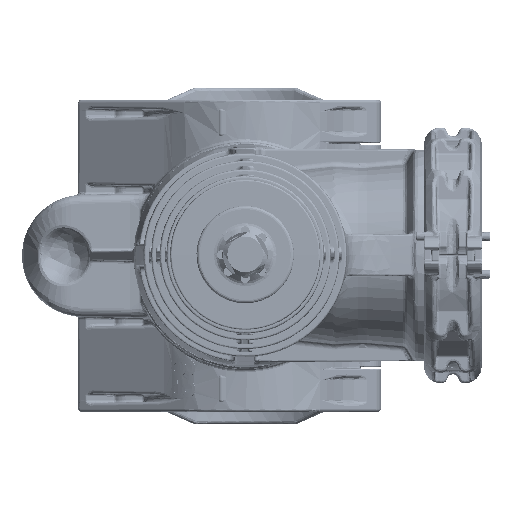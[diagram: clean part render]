
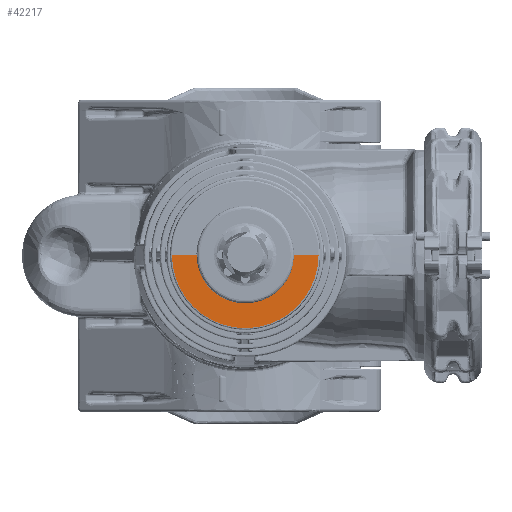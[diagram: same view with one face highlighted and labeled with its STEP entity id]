
A CAD part, top view. The second image highlights one B-rep face of the part: STEP entity #42217.
In plain terms, the highlighted free-form (B-spline) face has degree [1, 1] with [2, 2] control points.
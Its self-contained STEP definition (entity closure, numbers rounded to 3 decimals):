
#42217=ADVANCED_FACE('',(#108903),#108904,.T.);
#88185=VERTEX_POINT('',#155140);
#88189=VERTEX_POINT('',#155144);
#88191=EDGE_CURVE('',#88185,#88189,#155146,.T.);
#88195=VERTEX_POINT('',#155150);
#88197=EDGE_CURVE('',#88189,#88195,#155152,.T.);
#88201=VERTEX_POINT('',#155156);
#88203=EDGE_CURVE('',#88195,#88201,#155158,.T.);
#89001=VERTEX_POINT('',#155956);
#89003=EDGE_CURVE('',#89001,#88185,#155958,.T.);
#89005=VERTEX_POINT('',#155960);
#89007=EDGE_CURVE('',#89001,#89005,#155962,.T.);
#89009=VERTEX_POINT('',#155964);
#89011=EDGE_CURVE('',#89005,#89009,#155966,.T.);
#89013=EDGE_CURVE('',#88201,#89009,#155968,.T.);
#108903=FACE_OUTER_BOUND('',#272974,.T.);
#108904=B_SPLINE_SURFACE_WITH_KNOTS('',1,1,((#272975,#272976),(#272977,#272978)),.UNSPECIFIED.,.F.,.F.,.F.,(2,2),(2,2),(0.01,0.99),(0.03,0.981),.UNSPECIFIED.);
#155140=CARTESIAN_POINT('',(24.66,0.,135.5));
#155144=CARTESIAN_POINT('',(11.832,-21.663,135.311));
#155146=B_SPLINE_CURVE_WITH_KNOTS('',5,(#394666,#394667,#394668,#394669,#394670,#394671),.UNSPECIFIED.,.F.,.F.,(6,6),(0.0,1.0),.UNSPECIFIED.);
#155150=CARTESIAN_POINT('',(-21.651,-11.832,135.397));
#155152=B_SPLINE_CURVE_WITH_KNOTS('',5,(#394684,#394685,#394686,#394687,#394688,#394689,#394690,#394691,#394692,#394693,#394694,#394695),.UNSPECIFIED.,.F.,.F.,(6,3,3,6),(0.0,0.356,0.711,1.0),.UNSPECIFIED.);
#155156=CARTESIAN_POINT('',(-24.66,0.,135.5));
#155158=B_SPLINE_CURVE_WITH_KNOTS('',4,(#394708,#394709,#394710,#394711,#394712),.UNSPECIFIED.,.F.,.F.,(5,5),(0.0,1.0),.UNSPECIFIED.);
#155956=CARTESIAN_POINT('',(15.612,0.,135.5));
#155958=LINE('',#397201,#397202);
#155960=CARTESIAN_POINT('',(13.702,-7.48,135.435));
#155962=B_SPLINE_CURVE_WITH_KNOTS('',4,(#397207,#397208,#397209,#397210,#397211),.UNSPECIFIED.,.F.,.F.,(5,5),(0.0,1.0),.UNSPECIFIED.);
#155964=CARTESIAN_POINT('',(-15.612,0.,135.5));
#155966=B_SPLINE_CURVE_WITH_KNOTS('',5,(#397216,#397217,#397218,#397219,#397220,#397221,#397222,#397223,#397224,#397225,#397226,#397227),.UNSPECIFIED.,.F.,.F.,(6,3,3,6),(0.0,0.301,0.788,1.0),.UNSPECIFIED.);
#155968=LINE('',#397230,#397231);
#272974=EDGE_LOOP('',(#436678,#436679,#436680,#436681,#436682,#436683,#436684));
#272975=CARTESIAN_POINT('',(-24.662,-24.757,135.284));
#272976=CARTESIAN_POINT('',(-24.662,0.001,135.5));
#272977=CARTESIAN_POINT('',(24.663,-24.757,135.284));
#272978=CARTESIAN_POINT('',(24.663,0.001,135.5));
#394666=CARTESIAN_POINT('',(24.66,0.0,135.5));
#394667=CARTESIAN_POINT('',(24.666,-5.283,135.454));
#394668=CARTESIAN_POINT('',(23.258,-10.568,135.408));
#394669=CARTESIAN_POINT('',(20.428,-15.349,135.366));
#394670=CARTESIAN_POINT('',(16.47,-19.127,135.333));
#394671=CARTESIAN_POINT('',(11.832,-21.663,135.311));
#394684=CARTESIAN_POINT('',(11.832,-21.663,135.311));
#394685=CARTESIAN_POINT('',(9.413,-22.986,135.299));
#394686=CARTESIAN_POINT('',(6.81,-23.97,135.291));
#394687=CARTESIAN_POINT('',(4.084,-24.582,135.285));
#394688=CARTESIAN_POINT('',(-1.466,-25.029,135.282));
#394689=CARTESIAN_POINT('',(-6.926,-23.937,135.291));
#394690=CARTESIAN_POINT('',(-9.561,-23.011,135.299));
#394691=CARTESIAN_POINT('',(-14.039,-20.686,135.319));
#394692=CARTESIAN_POINT('',(-17.784,-17.331,135.349));
#394693=CARTESIAN_POINT('',(-19.284,-15.642,135.363));
#394694=CARTESIAN_POINT('',(-20.579,-13.798,135.38));
#394695=CARTESIAN_POINT('',(-21.651,-11.832,135.397));
#394708=CARTESIAN_POINT('',(-21.651,-11.832,135.397));
#394709=CARTESIAN_POINT('',(-23.127,-9.124,135.42));
#394710=CARTESIAN_POINT('',(-24.152,-6.169,135.446));
#394711=CARTESIAN_POINT('',(-24.663,-3.084,135.473));
#394712=CARTESIAN_POINT('',(-24.66,0.0,135.5));
#397201=CARTESIAN_POINT('',(15.612,0.,135.5));
#397202=VECTOR('',#450632,1.0);
#397207=CARTESIAN_POINT('',(15.612,0.,135.5));
#397208=CARTESIAN_POINT('',(15.612,-1.95,135.483));
#397209=CARTESIAN_POINT('',(15.286,-3.901,135.466));
#397210=CARTESIAN_POINT('',(14.636,-5.768,135.45));
#397211=CARTESIAN_POINT('',(13.702,-7.48,135.435));
#397216=CARTESIAN_POINT('',(13.702,-7.48,135.435));
#397217=CARTESIAN_POINT('',(12.512,-9.658,135.416));
#397218=CARTESIAN_POINT('',(10.89,-11.599,135.399));
#397219=CARTESIAN_POINT('',(8.898,-13.189,135.385));
#397220=CARTESIAN_POINT('',(2.996,-16.204,135.359));
#397221=CARTESIAN_POINT('',(-3.828,-15.964,135.361));
#397222=CARTESIAN_POINT('',(-7.853,-14.417,135.374));
#397223=CARTESIAN_POINT('',(-12.493,-10.518,135.408));
#397224=CARTESIAN_POINT('',(-14.876,-5.202,135.455));
#397225=CARTESIAN_POINT('',(-15.366,-3.499,135.469));
#397226=CARTESIAN_POINT('',(-15.612,-1.749,135.485));
#397227=CARTESIAN_POINT('',(-15.612,0.0,135.5));
#397230=CARTESIAN_POINT('',(-24.66,0.,135.5));
#397231=VECTOR('',#450633,1.0);
#436678=ORIENTED_EDGE('',*,*,#89003,.F.);
#436679=ORIENTED_EDGE('',*,*,#89007,.T.);
#436680=ORIENTED_EDGE('',*,*,#89011,.T.);
#436681=ORIENTED_EDGE('',*,*,#89013,.F.);
#436682=ORIENTED_EDGE('',*,*,#88203,.F.);
#436683=ORIENTED_EDGE('',*,*,#88197,.F.);
#436684=ORIENTED_EDGE('',*,*,#88191,.F.);
#450632=DIRECTION('',(1.0,0.,0.0));
#450633=DIRECTION('',(1.0,0.,0.0));
